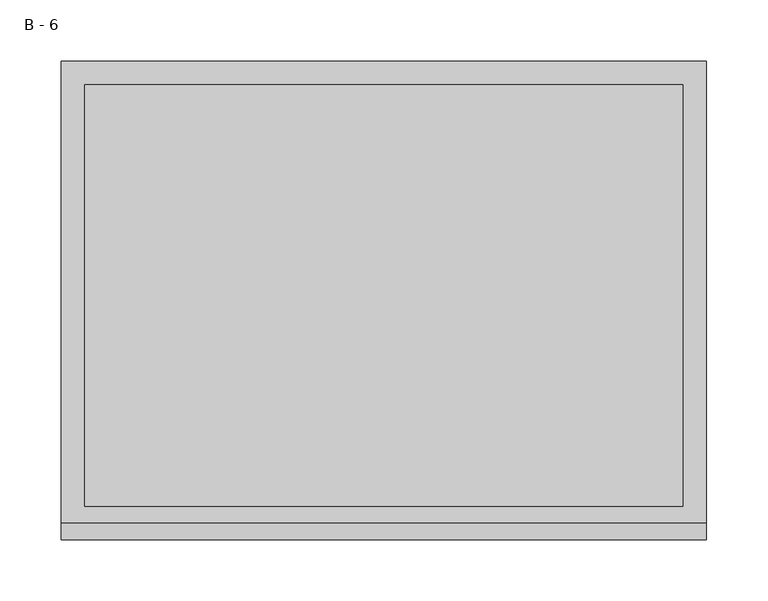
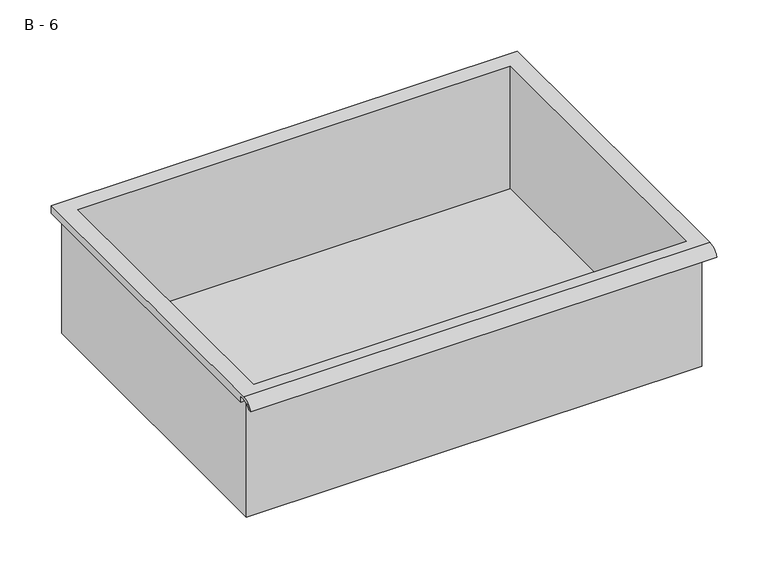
"""IFC4 building model written with IfcOpenShell, lengths in millimetres: furniture geometry, HermanMiller_CoStruc_CO207_Drawer : B - 6."""

from ifc_helpers import new_model, si_unit, frame, origin, place, context, project, spatial, polyline, circle_curve, source, transform, mapped, element, save
from ifc_brep_helpers import plane_surface, cylinder_surface, revolved_surface, advanced_brep


def b_6_b4610c64(model_context):
    return source(origin(), model_context, "Body", "AdvancedBrep", [
        advanced_brep(
        [(-257.1076517, -176.2125, 570.70752), (257.2423483, -176.2125, 570.70752), (257.2423483, -176.2125, 710.40752), (263.5923483, -176.2125, 710.40752), (263.5923483, -176.2125, 716.7146541), (-263.4576517, -176.2125, 716.7146541), (-263.4576517, -176.2125, 710.40752), (-257.1076517, -176.2125, 710.40752), (257.2423483, 185.7375, 570.70752), (-257.1076517, 185.7375, 570.70752), (-257.1076517, 185.7375, 710.40752), (257.2423483, 185.7375, 710.40752), (263.5923483, -181.6070544, 719.93252), (263.5923483, 195.2625, 719.93252), (-263.4576517, 195.2625, 719.93252), (-263.4576517, -181.6070544, 719.93252), (244.5423483, -168.275, 719.93252), (-244.4076517, -168.275, 719.93252), (-244.4076517, 176.2125, 719.93252), (244.5423483, 176.2125, 719.93252), (263.5923483, -195.2625, 710.40752), (263.5923483, -191.8280601, 710.40752), (263.5923483, -180.4714815, 716.7146541), (263.5923483, 195.2625, 710.40752), (-263.4576517, 195.2625, 710.40752), (-263.4576517, -180.4714815, 716.7146541), (-263.4576517, -191.8280601, 710.40752), (-263.4576517, -195.2625, 710.40752), (-244.4076517, -168.275, 573.7336919), (244.5423483, -168.275, 573.7336919), (244.5423483, 176.2125, 573.7336919), (-244.4076517, 176.2125, 573.7336919)],
        [
            (0, 1),
            (1, 2),
            (2, 3),
            (3, 4),
            (4, 5),
            (5, 6),
            (6, 7),
            (7, 0),
            (8, 9),
            (9, 10),
            (10, 11),
            (11, 8),
            (0, 9),
            (8, 1),
            (11, 2),
            (12, 13),
            (13, 14),
            (14, 15),
            (15, 12),
            (16, 17),
            (17, 18),
            (18, 19),
            (19, 16),
            (7, 10),
            (12, 20, circle_curve(frame((263.5923483, -181.6070544, 705.3815059), z_axis=(1.0, 0.0, 0.0), x_axis=(0.0, 1.0, 0.0)), 14.5510141)),
            (20, 21),
            (21, 22, circle_curve(frame((263.5923483, -181.6070544, 705.3815059), z_axis=(-1.0, 0.0, 0.0), x_axis=(0.0, 1.0, 0.0)), 11.3898979)),
            (22, 4),
            (3, 23),
            (23, 13),
            (14, 24),
            (24, 6),
            (5, 25),
            (25, 26, circle_curve(frame((-263.4576517, -181.6070544, 705.3815059), z_axis=(1.0, 0.0, 0.0), x_axis=(0.0, 1.0, 0.0)), 11.3898979)),
            (26, 27),
            (27, 15, circle_curve(frame((-263.4576517, -181.6070544, 705.3815059), z_axis=(-1.0, 0.0, 0.0), x_axis=(0.0, 1.0, 0.0)), 14.5510141)),
            (27, 20),
            (26, 21),
            (25, 22),
            (24, 23),
            (28, 29),
            (29, 30),
            (30, 31),
            (31, 28),
            (28, 17),
            (16, 29),
            (19, 30),
            (18, 31),
        ],
        [
            plane_surface(frame((257.2423483, -176.2125, 570.70752), z_axis=(0.0, -1.0, 0.0), x_axis=(1.0, 0.0, 0.0))),
            plane_surface(frame((257.2423483, 185.7375, 570.70752), z_axis=(0.0, 1.0, 0.0), x_axis=(-1.0, 0.0, 0.0))),
            plane_surface(frame((-257.1076517, -176.2125, 570.70752), z_axis=(0.0, 0.0, -1.0), x_axis=(0.0, 1.0, 0.0))),
            plane_surface(frame((257.2423483, -176.2125, 570.70752), z_axis=(1.0, 0.0, 0.0), x_axis=(0.0, 1.0, 0.0))),
            plane_surface(frame((257.2423483, -176.2125, 719.93252), z_axis=(0.0, 0.0, 1.0), x_axis=(0.0, 1.0, 0.0))),
            plane_surface(frame((-257.1076517, -176.2125, 719.93252), z_axis=(-1.0, 0.0, 0.0), x_axis=(0.0, 1.0, 0.0))),
            plane_surface(frame((263.5923483, 195.2625, 719.93252), z_axis=(1.0, 0.0, 0.0), x_axis=(0.0, -1.0, 0.0))),
            plane_surface(frame((-263.4576517, 195.2625, 719.93252), z_axis=(-1.0, 0.0, 0.0), x_axis=(0.0, 1.0, 0.0))),
            cylinder_surface(frame((-263.4576517, -181.6070544, 705.3815059), z_axis=(1.0, 0.0, 0.0), x_axis=(0.0, 1.0, 0.0)), 14.5510141),
            plane_surface(frame((263.5923483, -195.2625, 710.40752), z_axis=(0.0, -7.172997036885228e-12, -1.0), x_axis=(-1.0, 0.0, 0.0))),
            revolved_surface(polyline([(-263.4576517, -170.21715650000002, 705.3815059), (263.59234829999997, -170.21715650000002, 705.3815059)]), (-263.4576517, -181.6070544, 705.3815059), (-1.0, 0.0, 0.0)),
            plane_surface(frame((263.5923483, -180.4714815, 716.7146541), z_axis=(0.0, -1.779784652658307e-11, -1.0), x_axis=(-1.0, 0.0, 0.0))),
            plane_surface(frame((263.5923483, -176.2125, 710.40752), z_axis=(0.0, 0.0, -1.0), x_axis=(-1.0, 0.0, 0.0))),
            plane_surface(frame((263.5923483, 195.2625, 710.40752), z_axis=(0.0, 1.0, 0.0), x_axis=(-1.0, 0.0, 0.0))),
            plane_surface(frame((244.5423483, -168.275, 573.7336919), z_axis=(0.0, 0.0, 1.0), x_axis=(-1.0, 0.0, 0.0))),
            plane_surface(frame((-244.4076517, -168.275, 719.93252), z_axis=(0.0, 1.0, 0.0), x_axis=(0.0, 0.0, -1.0))),
            plane_surface(frame((244.5423483, -168.275, 719.93252), z_axis=(-1.0, 0.0, 0.0), x_axis=(0.0, 0.0, -1.0))),
            plane_surface(frame((244.5423483, 176.2125, 719.93252), z_axis=(0.0, -1.0, 0.0), x_axis=(0.0, 0.0, -1.0))),
            plane_surface(frame((-244.4076517, 176.2125, 719.93252), z_axis=(1.0, 0.0, 0.0), x_axis=(0.0, 0.0, -1.0))),
        ],
        [
            (0, [[1, 2, 3, 4, 5, 6, 7, 8]]),
            (1, [[9, 10, 11, 12]]),
            (2, [[-1, 13, -9, 14]]),
            (3, [[-14, -12, 15, -2]]),
            (4, [[16, 17, 18, 19], [20, 21, 22, 23]]),
            (5, [[-13, -8, 24, -10]]),
            (6, [[-16, 25, 26, 27, 28, -4, 29, 30]]),
            (7, [[31, 32, -6, 33, 34, 35, 36, -18]]),
            (8, [[-25, -19, -36, 37]]),
            (9, [[-26, -37, -35, 38]]),
            (10, [[-27, -38, -34, 39]]),
            (11, [[-28, -39, -33, -5]]),
            (12, [[-29, -3, -15, -11, -24, -7, -32, 40]]),
            (13, [[-30, -40, -31, -17]]),
            (14, [[41, 42, 43, 44]]),
            (15, [[-41, 45, -20, 46]]),
            (16, [[-42, -46, -23, 47]]),
            (17, [[-43, -47, -22, 48]]),
            (18, [[-44, -48, -21, -45]]),
        ],
    ),
    ])


if __name__ == "__main__":
    model = new_model("IFC4")
    model_context = context("Model", 3, world=origin())
    ifc_project = project(units=[si_unit("LENGTHUNIT", "METRE", prefix="MILLI")], contexts=[model_context])
    site = spatial("IfcSite", under=ifc_project)
    building = spatial("IfcBuilding", under=site)
    placement = place(None, origin())
    b_6_shape = b_6_b4610c64(model_context)
    element("IfcFurniture", 1, ObjectType="HermanMiller_CoStruc_CO207_Drawer : B - 6", at=placement, inside=building, context=model_context, shape_type="MappedRepresentation", body=[
        mapped(b_6_shape, transform((0.0, 0.0, 0.0), x_axis=(1.0, 0.0, 0.0), y_axis=(0.0, 1.0, 0.0), z_axis=(0.0, 0.0, 1.0))),
    ])
    save(model, "model.ifc")
